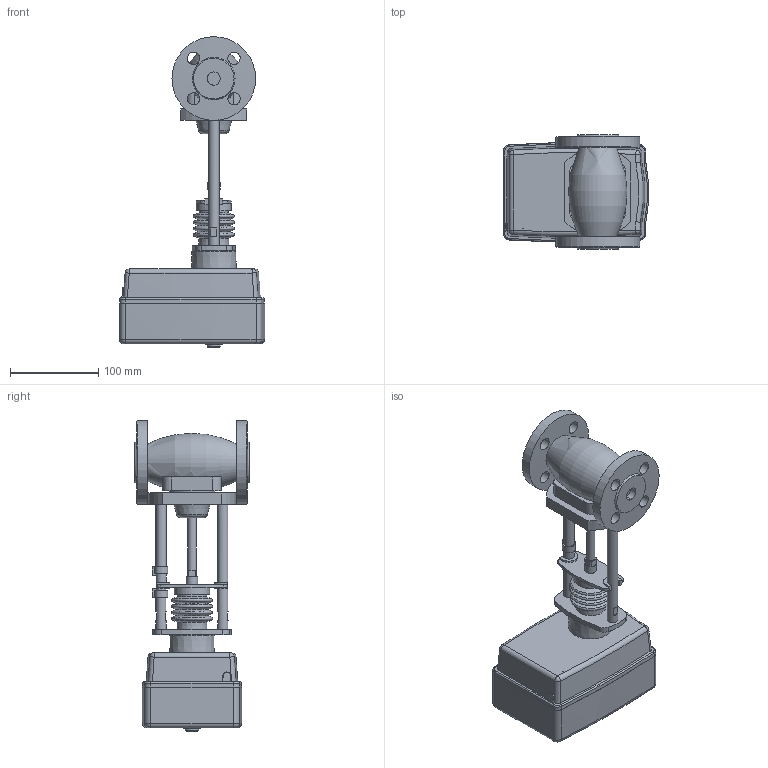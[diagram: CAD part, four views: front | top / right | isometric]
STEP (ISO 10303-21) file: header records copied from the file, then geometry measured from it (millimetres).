
FILE_DESCRIPTION(/* description */ ('Unknown'),/* implementation_level */ '2;1');
FILE_NAME(/* name */ 'Клапан TRV-015-101',/* time_stamp */ '2021-12-06T16:14:20+03:00',/* author */ ('Unknown'),/* organization */ ('Unknown'),/* preprocessor_version */ 'ST-DEVELOPER v16.7',/* originating_system */ 'DEX',/* authorisation */ $);
FILE_SCHEMA (('TECHNICAL_DATA_PACKAGING','AUTOMOTIVE_DESIGN {1 0 10303 214 3 1 1}'));
Length unit declared in the file: millimetre
Products named in the file (1): 抔黽鳧 TRV-015-101
Bounding box: 164.51 x 130 x 352.4 mm (x, y, z)
Volume: 2179791.4 mm3; surface area: 184831 mm2
Topology: 1 solids, 1 shells, 296 faces, 767 edges, 490 vertices
Faces by surface type: plane 147, cylinder 75, torus 34, cone 29, bspline 7, sphere 4
Full cylindrical faces by diameter (mm): 9.246 x1, 12.002 x4, 13 x1, 14 x8, 15 x2, 33.4 x1, 40 x1, 52 x1, 95 x2
Entity records: 11057 total; most frequent: CARTESIAN_POINT 2070, DIRECTION 1472, ORIENTED_EDGE 1344, EDGE_CURVE 672, AXIS2_PLACEMENT_3D 574, VERTEX_POINT 450, EDGE_LOOP 392, FACE_BOUND 392
